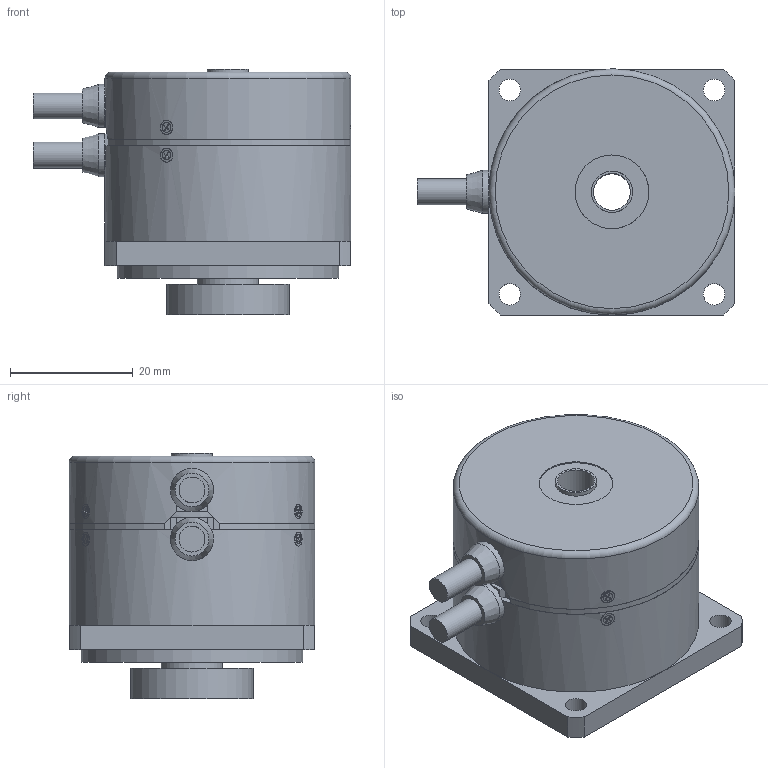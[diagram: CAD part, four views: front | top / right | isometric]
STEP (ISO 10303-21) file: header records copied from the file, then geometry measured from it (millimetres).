
FILE_DESCRIPTION(('STEP AP214'),'1');
FILE_NAME('MDH-4006.stp','2017-10-10T07:29:17',(' '),(' '),'Spatial InterOp 3D',' ',' ');
FILE_SCHEMA(('automotive_design'));
Length unit declared in the file: millimetre
Products named in the file (11): オイルシール; ケーブル; タッピングネジ M1.4x2.2; サラコネジ M1.4x2.5; ｱﾝｷﾞｭﾗﾍﾞｱﾘﾝｸﾞ MTA08-19; ブッシュ; カバー_H; ベース; シャフト_H4006; ケース_4006
Assembly tree (17 placements, depth 2):
  (unnamed)
    オイルシール
    ケーブル  x2
    タッピングネジ M1.4x2.2  x3
    サラコネジ M1.4x2.5  x3
    ｱﾝｷﾞｭﾗﾍﾞｱﾘﾝｸﾞ MTA08-19  x2
    ブッシュ  x2
    カバー_H
    ベース
    シャフト_H4006
    ケース_4006
Bounding box: 51.7 x 40 x 40 mm (x, y, z)
Volume: 20320.3 mm3; surface area: 24875.7 mm2
Topology: 17 solids, 19 shells, 330 faces, 775 edges, 509 vertices
Faces by surface type: plane 196, cylinder 108, cone 24, torus 2
Full cylindrical faces by diameter (mm): 1.1 x6, 1.4 x12, 1.5 x3, 1.6 x9, 2.05 x6, 2.3 x6, 3.5 x4, 4.2 x4, 6 x1, 6.7 x2, 7 x2, 7.3 x1, 8 x4, 10 x2, 11 x4, 12 x4, 13 x1, 15 x2, 16 x4, 17 x2, 19 x4, 20 x1, 24 x1, 36 x1, 37 x1, 38 x1, 38.2 x1, 39 x2, 40 x2
Entity records: 8263 total; most frequent: CARTESIAN_POINT 1674, DIRECTION 981, ORIENTED_EDGE 772, AXIS2_PLACEMENT_3D 393, EDGE_CURVE 386, EDGE_LOOP 377, VERTEX_POINT 304, FACE_OUTER_BOUND 287
